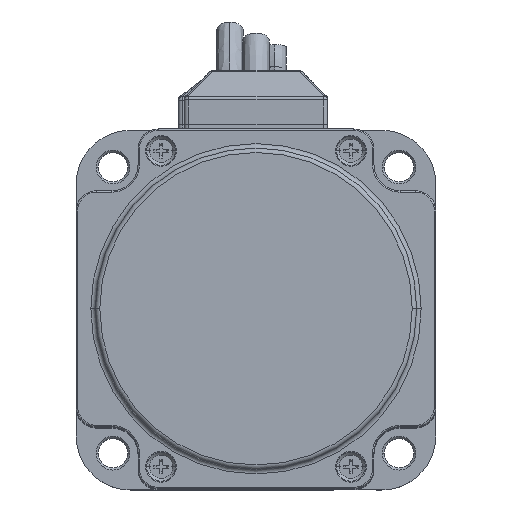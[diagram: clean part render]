
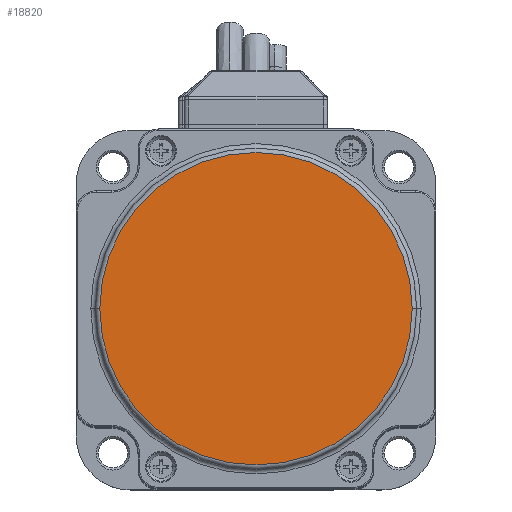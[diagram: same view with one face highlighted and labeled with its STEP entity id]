
A CAD part, top view. The second image highlights one B-rep face of the part: STEP entity #18820.
In plain terms, the highlighted planar face has unit normal (0, 0, 1).
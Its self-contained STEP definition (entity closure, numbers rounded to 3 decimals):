
#5741 = AXIS2_PLACEMENT_3D ( 'NONE', #24119, #71897, #31022 ) ;
#6554 = CIRCLE ( 'NONE', #88722, 34.75 ) ;
#9368 = FACE_OUTER_BOUND ( 'NONE', #49234, .T. ) ;
#11502 = ORIENTED_EDGE ( 'NONE', *, *, #79238, .T. ) ;
#18459 = CARTESIAN_POINT ( 'NONE',  ( 0., 0., 187.1 ) ) ;
#18820 = ADVANCED_FACE ( 'NONE', ( #9368 ), #84391, .T. ) ;
#18836 = VERTEX_POINT ( 'NONE', #43784 ) ;
#23486 = AXIS2_PLACEMENT_3D ( 'NONE', #57218, #77826, #36985 ) ;
#24119 = CARTESIAN_POINT ( 'NONE',  ( 0., 0., 187.1 ) ) ;
#25349 = DIRECTION ( 'NONE',  ( -1., 0., 0. ) ) ;
#31022 = DIRECTION ( 'NONE',  ( -1., 0., 0. ) ) ;
#36608 = ORIENTED_EDGE ( 'NONE', *, *, #37561, .T. ) ;
#36985 = DIRECTION ( 'NONE',  ( -1., 0., 0. ) ) ;
#37561 = EDGE_CURVE ( 'NONE', #18836, #73964, #6554, .T. ) ;
#43784 = CARTESIAN_POINT ( 'NONE',  ( -34.75, 0., 187.1 ) ) ;
#49234 = EDGE_LOOP ( 'NONE', ( #36608, #11502 ) ) ;
#57218 = CARTESIAN_POINT ( 'NONE',  ( 0., 0., 187.1 ) ) ;
#66243 = DIRECTION ( 'NONE',  ( 0., 0., 1. ) ) ;
#67255 = CARTESIAN_POINT ( 'NONE',  ( 34.75, 0., 187.1 ) ) ;
#71897 = DIRECTION ( 'NONE',  ( 0., 0., 1. ) ) ;
#73964 = VERTEX_POINT ( 'NONE', #67255 ) ;
#75327 = CIRCLE ( 'NONE', #5741, 34.75 ) ;
#77826 = DIRECTION ( 'NONE',  ( 0., 0., 1. ) ) ;
#79238 = EDGE_CURVE ( 'NONE', #73964, #18836, #75327, .T. ) ;
#84391 = PLANE ( 'NONE',  #23486 ) ;
#88722 = AXIS2_PLACEMENT_3D ( 'NONE', #18459, #66243, #25349 ) ;
